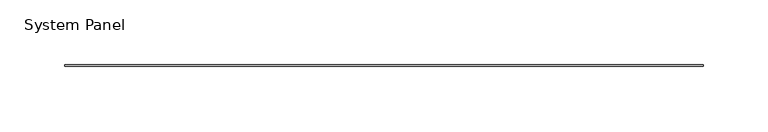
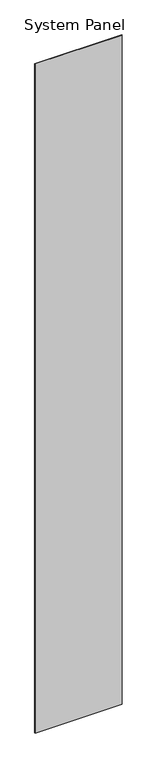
"""IFC4 building model written with IfcOpenShell, lengths in millimetres: plate geometry, System Panel : Stratco_Hiland_Interlock_Panel."""

from ifc_helpers import new_model, si_unit, origin, origin_with_axes, place, context, project, spatial, polyline, outline, extrude, source, transform, mapped, element, save


def system_panel_ec0c27b4(model_context):
    return source(origin(), model_context, "Body", "SweptSolid", [
        extrude(outline(polyline([(246.5000002, 24.0), (-246.5000002, 24.0), (-246.5000002, 25.0), (246.5000002, 25.0), (246.5000002, 24.0)])), origin_with_axes(), (0.0, 0.0, 1.0), 4000.0),
    ])


if __name__ == "__main__":
    model = new_model("IFC4")
    model_context = context("Model", 3, world=origin())
    ifc_project = project(units=[si_unit("LENGTHUNIT", "METRE", prefix="MILLI")], contexts=[model_context])
    site = spatial("IfcSite", under=ifc_project)
    building = spatial("IfcBuilding", under=site)
    placement = place(None, origin())
    system_panel_shape = system_panel_ec0c27b4(model_context)
    element("IfcPlate", 1, ObjectType="System Panel : Stratco_Hiland_Interlock_Panel", at=placement, inside=building, context=model_context, shape_type="MappedRepresentation", body=[
        mapped(system_panel_shape, transform((0.0, 0.0, 0.0), x_axis=(1.0, 0.0, 0.0), y_axis=(0.0, 1.0, 0.0), z_axis=(0.0, 0.0, 1.0))),
    ])
    save(model, "model.ifc")
